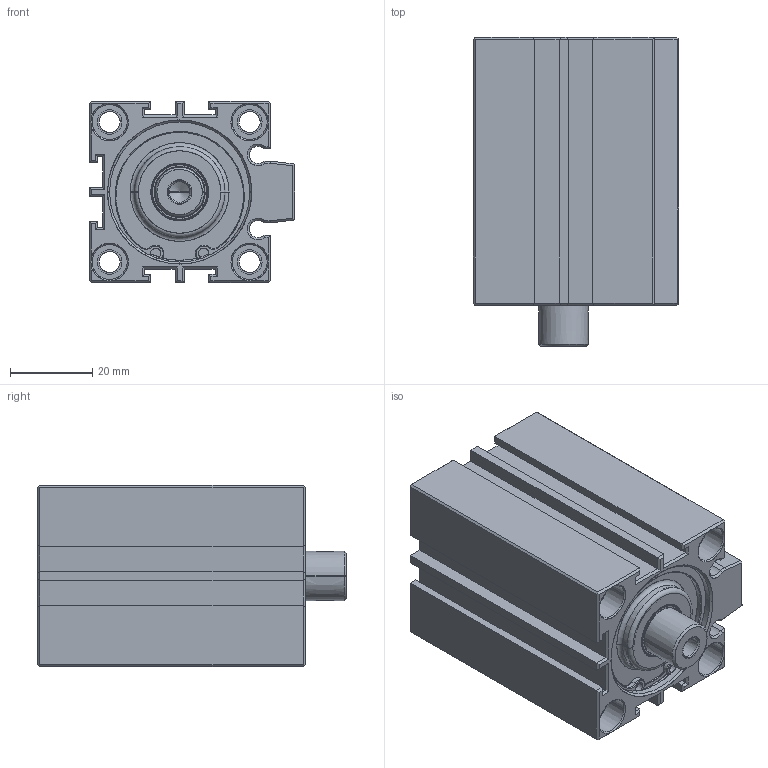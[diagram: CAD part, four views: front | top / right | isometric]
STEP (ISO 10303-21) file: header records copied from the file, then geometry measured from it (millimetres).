
FILE_DESCRIPTION((''),'2;1');
FILE_NAME('3D-NDFOCL32X5','2014-01-18T',('yfs-01'),('foxconn'),'PRO/ENGINEER BY PARAMETRIC TECHNOLOGY CORPORATION, 2007230','PRO/ENGINEER BY PARAMETRIC TECHNOLOGY CORPORATION, 2007230','');
FILE_SCHEMA(('CONFIG_CONTROL_DESIGN'));
Products named in the file (1): 3D-NDFOCL32X5
Bounding box: 50 x 75 x 44 mm (x, y, z)
Surface area: 33775 mm2 (no closed solid volume)
Topology: 0 solids, 0 shells, 412 faces, 1930 edges, 1918 vertices
Faces by surface type: bspline 398, torus 14
Entity records: 47827 total; most frequent: CARTESIAN_POINT 26768, DIRECTION 3560, TRIMMED_CURVE 3104, VECTOR 2676, LINE 2676, DEFINITIONAL_REPRESENTATION 1908, PCURVE 1908, COMPOSITE_CURVE_SEGMENT 1908
